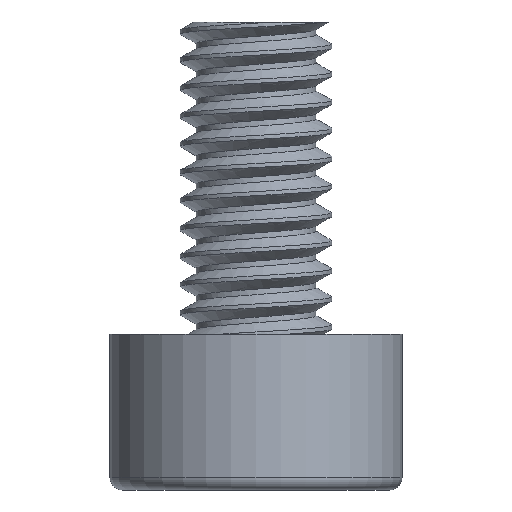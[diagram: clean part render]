
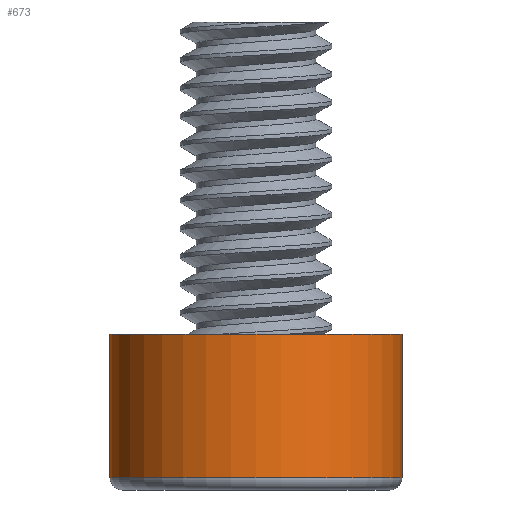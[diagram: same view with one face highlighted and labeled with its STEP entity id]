
A CAD part, front view. The second image highlights one B-rep face of the part: STEP entity #673.
In plain terms, the highlighted cylindrical face has radius 2.34 mm (diameter 4.68 mm), a full revolution.
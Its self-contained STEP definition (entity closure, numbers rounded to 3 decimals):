
#58=FACE_OUTER_BOUND('',#96,.T.);
#96=EDGE_LOOP('',(#574,#575,#576,#577));
#112=CIRCLE('',#727,2.34);
#115=CIRCLE('',#731,2.34);
#190=LINE('',#2642,#231);
#231=VECTOR('',#835,2.34);
#302=VERTEX_POINT('',#2634);
#304=VERTEX_POINT('',#2640);
#395=EDGE_CURVE('',#302,#302,#112,.T.);
#398=EDGE_CURVE('',#304,#304,#115,.T.);
#399=EDGE_CURVE('',#304,#302,#190,.T.);
#574=ORIENTED_EDGE('',*,*,#398,.F.);
#575=ORIENTED_EDGE('',*,*,#399,.T.);
#576=ORIENTED_EDGE('',*,*,#395,.F.);
#577=ORIENTED_EDGE('',*,*,#399,.F.);
#644=CYLINDRICAL_SURFACE('',#730,2.34);
#673=ADVANCED_FACE('',(#58),#644,.T.);
#727=AXIS2_PLACEMENT_3D('',#2635,#825,#826);
#730=AXIS2_PLACEMENT_3D('',#2639,#831,#832);
#731=AXIS2_PLACEMENT_3D('',#2641,#833,#834);
#825=DIRECTION('center_axis',(0.,0.,-1.));
#826=DIRECTION('ref_axis',(0.5,-0.866,0.));
#831=DIRECTION('center_axis',(0.,0.,1.));
#832=DIRECTION('ref_axis',(0.5,-0.866,0.));
#833=DIRECTION('center_axis',(0.,0.,1.));
#834=DIRECTION('ref_axis',(0.5,-0.866,0.));
#835=DIRECTION('',(0.,0.,-1.));
#2634=CARTESIAN_POINT('',(2.33,-4.036,0.2));
#2635=CARTESIAN_POINT('Origin',(3.5,-6.062,0.2));
#2639=CARTESIAN_POINT('Origin',(3.5,-6.062,0.));
#2640=CARTESIAN_POINT('',(2.33,-4.036,2.5));
#2641=CARTESIAN_POINT('Origin',(3.5,-6.062,2.5));
#2642=CARTESIAN_POINT('',(2.33,-4.036,0.));
